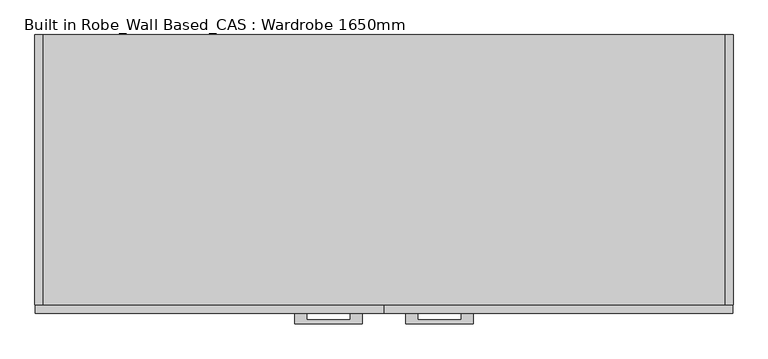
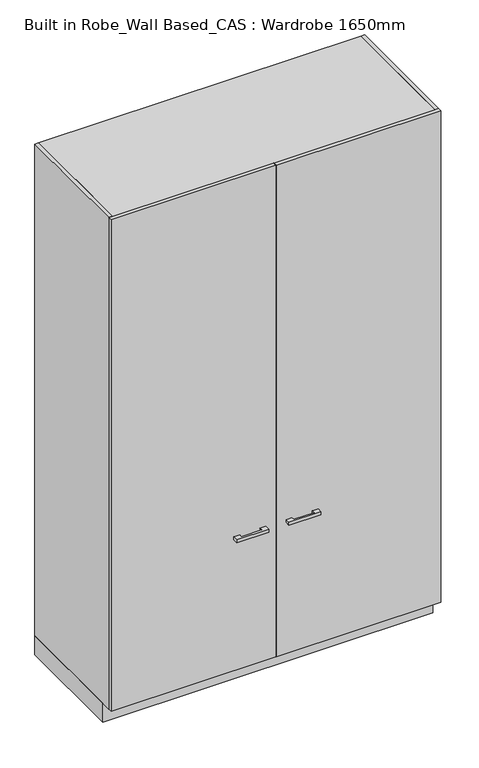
"""IFC4 building model written with IfcOpenShell, lengths in millimetres: furniture geometry, Built in Robe_Wall Based_CAS : Wardrobe 1650mm."""

from ifc_helpers import new_model, si_unit, point, frame, frame_2d, origin, origin_with_axes, place, context, project, spatial, polyline, circle_curve, trimmed, segment, composite_curve, outline, extrude, source, transform, mapped, element, save


def built_in_robe_wall_based_cas_wardrobe_1650mm_37e9906c(model_context):
    return source(origin(), model_context, "Body", "SweptSolid", [
        extrude(outline(polyline([(950.0, 11.0), (-700.0, 11.0), (-700.0, 600.0), (-680.0, 600.0), (-680.0, 31.0), (930.0, 31.0), (930.0, 600.0), (950.0, 600.0), (950.0, 11.0)])), origin_with_axes(), (0.0, 0.0, 1.0), 100.0),
        extrude(outline(polyline([(176.0, -84.0), (176.0, -59.0), (205.0, -59.0), (205.0, -74.0), (307.0, -74.0), (307.0, -59.0), (336.0, -59.0), (336.0, -84.0), (176.0, -84.0)])), frame((0.0, 0.0, 792.5), z_axis=(0.0, 0.0, 1.0), x_axis=(1.0, 0.0, 0.0)), (0.0, 0.0, 1.0), 15.0),
        extrude(outline(polyline([(949.0, -59.0), (126.0, -59.0), (126.0, -39.0), (949.0, -39.0), (949.0, -59.0)])), frame((0.0, 0.0, 100.0), z_axis=(0.0, 0.0, 1.0), x_axis=(1.0, 0.0, 0.0)), (0.0, 0.0, 1.0), 2599.0),
        extrude(outline(polyline([(74.0, -84.0), (-86.0, -84.0), (-86.0, -59.0), (-57.0, -59.0), (-57.0, -74.0), (45.0, -74.0), (45.0, -59.0), (74.0, -59.0), (74.0, -84.0)])), frame((0.0, 0.0, 792.5), z_axis=(0.0, 0.0, 1.0), x_axis=(1.0, 0.0, 0.0)), (0.0, 0.0, 1.0), 15.0),
        extrude(outline(polyline([(-699.0, -59.0), (-699.0, -39.0), (124.0, -39.0), (124.0, -59.0), (-699.0, -59.0)])), frame((0.0, 0.0, 100.0), z_axis=(0.0, 0.0, 1.0), x_axis=(1.0, 0.0, 0.0)), (0.0, 0.0, 1.0), 2599.0),
        extrude(outline(composite_curve([segment(trimmed(circle_curve(frame_2d((260.5, 2060.0)), 37.5), [point((223.0, 2060.0))], [point((298.0, 2060.0))], False, "CARTESIAN"), True, "CONTINUOUS"), segment(trimmed(circle_curve(frame_2d((260.5, 2060.0)), 37.5), [point((298.0, 2060.0))], [point((223.0, 2060.0))], False, "CARTESIAN"), True, "CONTINUOUS")], self_intersect=False)), frame((-680.0, 0.0, 0.0), z_axis=(1.0, 0.0, 0.0), x_axis=(0.0, 1.0, 0.0)), (0.0, 0.0, 1.0), 10.0),
        extrude(outline(composite_curve([segment(trimmed(circle_curve(frame_2d((260.5, 2060.0)), 10.0), [point((270.5, 2060.0))], [point((250.5, 2060.0))], False, "CARTESIAN"), True, "CONTINUOUS"), segment(trimmed(circle_curve(frame_2d((260.5, 2060.0)), 10.0), [point((250.5, 2060.0))], [point((270.5, 2060.0))], False, "CARTESIAN"), True, "CONTINUOUS")], self_intersect=False)), frame((-670.0, 0.0, 0.0), z_axis=(1.0, 0.0, 0.0), x_axis=(0.0, 1.0, 0.0)), (0.0, 0.0, 1.0), 1590.0),
        extrude(outline(composite_curve([segment(trimmed(circle_curve(frame_2d((260.5, 2060.0)), 37.5), [point((223.0, 2060.0))], [point((298.0, 2060.0))], False, "CARTESIAN"), True, "CONTINUOUS"), segment(trimmed(circle_curve(frame_2d((260.5, 2060.0)), 37.5), [point((298.0, 2060.0))], [point((223.0, 2060.0))], False, "CARTESIAN"), True, "CONTINUOUS")], self_intersect=False)), frame((920.0, 0.0, 0.0), z_axis=(1.0, 0.0, 0.0), x_axis=(0.0, 1.0, 0.0)), (0.0, 0.0, 1.0), 10.0),
        extrude(outline(composite_curve([segment(trimmed(circle_curve(frame_2d((260.5, 1100.0)), 37.5), [point((223.0, 1100.0))], [point((298.0, 1100.0))], False, "CARTESIAN"), True, "CONTINUOUS"), segment(trimmed(circle_curve(frame_2d((260.5, 1100.0)), 37.5), [point((298.0, 1100.0))], [point((223.0, 1100.0))], False, "CARTESIAN"), True, "CONTINUOUS")], self_intersect=False)), frame((-680.0, 0.0, 0.0), z_axis=(1.0, 0.0, 0.0), x_axis=(0.0, 1.0, 0.0)), (0.0, 0.0, 1.0), 10.0),
        extrude(outline(composite_curve([segment(trimmed(circle_curve(frame_2d((260.5, 1100.0)), 10.0), [point((270.5, 1100.0))], [point((250.5, 1100.0))], False, "CARTESIAN"), True, "CONTINUOUS"), segment(trimmed(circle_curve(frame_2d((260.5, 1100.0)), 10.0), [point((250.5, 1100.0))], [point((270.5, 1100.0))], False, "CARTESIAN"), True, "CONTINUOUS")], self_intersect=False)), frame((-670.0, 0.0, 0.0), z_axis=(1.0, 0.0, 0.0), x_axis=(0.0, 1.0, 0.0)), (0.0, 0.0, 1.0), 1590.0),
        extrude(outline(composite_curve([segment(trimmed(circle_curve(frame_2d((260.5, 1100.0)), 37.5), [point((223.0, 1100.0))], [point((298.0, 1100.0))], False, "CARTESIAN"), True, "CONTINUOUS"), segment(trimmed(circle_curve(frame_2d((260.5, 1100.0)), 37.5), [point((298.0, 1100.0))], [point((223.0, 1100.0))], False, "CARTESIAN"), True, "CONTINUOUS")], self_intersect=False)), frame((920.0, 0.0, 0.0), z_axis=(1.0, 0.0, 0.0), x_axis=(0.0, 1.0, 0.0)), (0.0, 0.0, 1.0), 10.0),
        extrude(outline(polyline([(-680.0, 580.0), (930.0, 580.0), (930.0, -39.0), (-680.0, -39.0), (-680.0, 580.0)])), frame((0.0, 0.0, 100.0), z_axis=(0.0, 0.0, 1.0), x_axis=(1.0, 0.0, 0.0)), (0.0, 0.0, 1.0), 20.0),
        extrude(outline(polyline([(-680.0, 600.0), (930.0, 600.0), (930.0, -39.0), (-680.0, -39.0), (-680.0, 600.0)])), frame((0.0, 0.0, 2680.0), z_axis=(0.0, 0.0, 1.0), x_axis=(1.0, 0.0, 0.0)), (0.0, 0.0, 1.0), 20.0),
        extrude(outline(polyline([(-680.0, 600.0), (-680.0, -39.0), (-700.0, -39.0), (-700.0, 600.0), (-680.0, 600.0)])), frame((0.0, 0.0, 100.0), z_axis=(0.0, 0.0, 1.0), x_axis=(1.0, 0.0, 0.0)), (0.0, 0.0, 1.0), 2600.0),
        extrude(outline(polyline([(950.0, 600.0), (950.0, -39.0), (930.0, -39.0), (930.0, 600.0), (950.0, 600.0)])), frame((0.0, 0.0, 100.0), z_axis=(0.0, 0.0, 1.0), x_axis=(1.0, 0.0, 0.0)), (0.0, 0.0, 1.0), 2600.0),
        extrude(outline(polyline([(-680.0, 580.0), (-680.0, 600.0), (930.0, 600.0), (930.0, 580.0), (-680.0, 580.0)])), frame((0.0, 0.0, 100.0), z_axis=(0.0, 0.0, 1.0), x_axis=(1.0, 0.0, 0.0)), (0.0, 0.0, 1.0), 2580.0),
    ])


if __name__ == "__main__":
    model = new_model("IFC4")
    model_context = context("Model", 3, world=origin())
    ifc_project = project(units=[si_unit("LENGTHUNIT", "METRE", prefix="MILLI")], contexts=[model_context])
    site = spatial("IfcSite", under=ifc_project)
    building = spatial("IfcBuilding", under=site)
    placement = place(None, origin())
    built_in_robe_wall_based_cas_wardrobe_1650mm_shape = built_in_robe_wall_based_cas_wardrobe_1650mm_37e9906c(model_context)
    element("IfcFurniture", 1, ObjectType="Built in Robe_Wall Based_CAS : Wardrobe 1650mm", at=placement, inside=building, context=model_context, shape_type="MappedRepresentation", body=[
        mapped(built_in_robe_wall_based_cas_wardrobe_1650mm_shape, transform((0.0, 0.0, 0.0), x_axis=(1.0, 0.0, 0.0), y_axis=(0.0, 1.0, 0.0), z_axis=(0.0, 0.0, 1.0))),
    ])
    save(model, "model.ifc")
